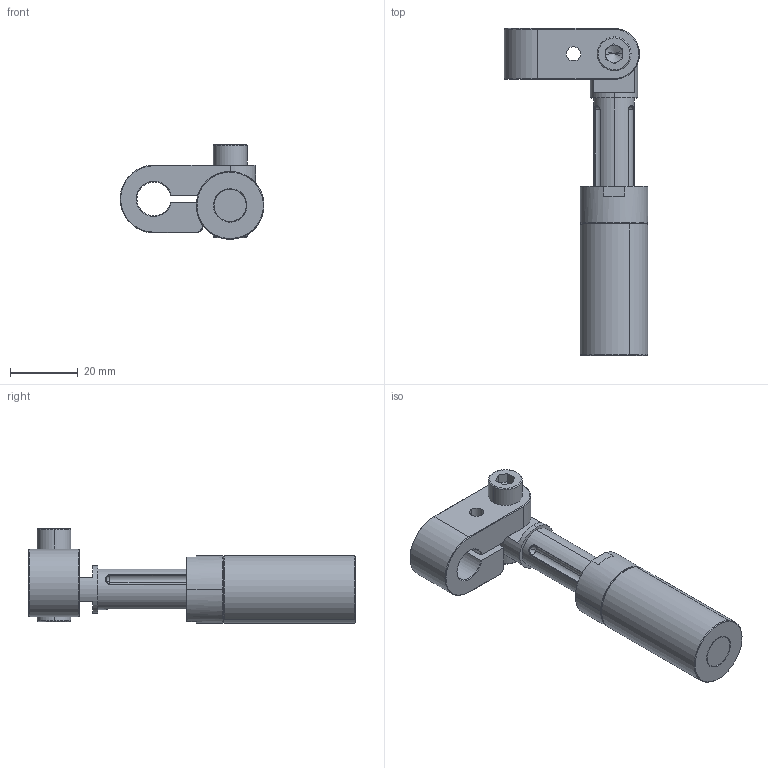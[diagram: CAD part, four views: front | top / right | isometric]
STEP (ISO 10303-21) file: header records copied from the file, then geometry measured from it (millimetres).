
FILE_DESCRIPTION (( 'STEP AP214' ), '1' );
FILE_NAME ('GSR2026-10.STEP', '2019-11-12T08:26:26', ( '微软用户' ), ( '微软中国' ), 'SwSTEP 2.0', 'SolidWorks 2016', '' );
FILE_SCHEMA (( 'AUTOMOTIVE_DESIGN' ));
Length unit declared in the file: millimetre
Products named in the file (1): GSR2026-10
Bounding box: 42.5 x 96.5 x 27.9 mm (x, y, z)
Volume: 25954.1 mm3; surface area: 15979.1 mm2
Topology: 6 solids, 6 shells, 323 faces, 798 edges, 498 vertices
Faces by surface type: cylinder 112, cone 99, plane 78, sphere 14, bspline 12, torus 8
Entity records: 18740 total; most frequent: CARTESIAN_POINT 7562, DIRECTION 1640, ORIENTED_EDGE 1588, EDGE_CURVE 794, AXIS2_PLACEMENT_3D 657, VERTEX_POINT 498, EDGE_LOOP 356, CIRCLE 345
